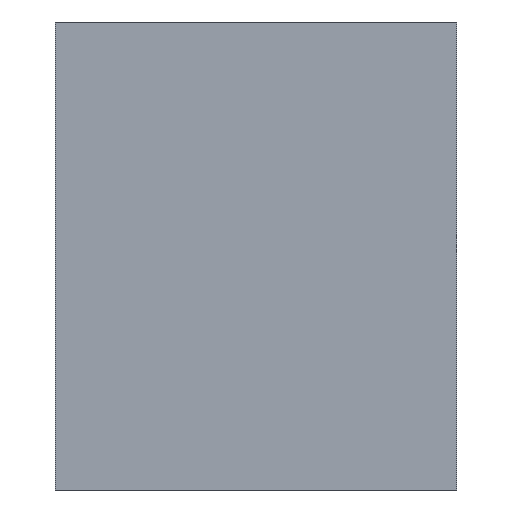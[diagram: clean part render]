
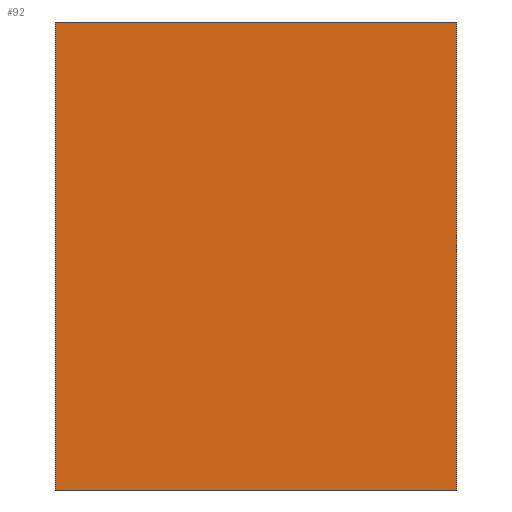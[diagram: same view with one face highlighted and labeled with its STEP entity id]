
A CAD part, top view. The second image highlights one B-rep face of the part: STEP entity #92.
In plain terms, the highlighted planar face has unit normal (0, 0, 1).
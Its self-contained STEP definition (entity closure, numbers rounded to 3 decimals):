
#53=CARTESIAN_POINT('Axis2P3D Location',(0.,0.,0.)) ;
#58=CARTESIAN_POINT('Line Origine',(60.,0.,0.)) ;
#62=CARTESIAN_POINT('Vertex',(0.,0.,0.)) ;
#64=CARTESIAN_POINT('Vertex',(120.,0.,0.)) ;
#67=CARTESIAN_POINT('Line Origine',(120.,70.,0.)) ;
#71=CARTESIAN_POINT('Vertex',(120.,140.,0.)) ;
#74=CARTESIAN_POINT('Line Origine',(60.,140.,0.)) ;
#78=CARTESIAN_POINT('Vertex',(0.,140.,0.)) ;
#81=CARTESIAN_POINT('Line Origine',(0.,70.,0.)) ;
#54=DIRECTION('Axis2P3D Direction',(0.,0.,1.)) ;
#55=DIRECTION('Axis2P3D XDirection',(1.,0.,0.)) ;
#59=DIRECTION('Vector Direction',(1.,0.,0.)) ;
#68=DIRECTION('Vector Direction',(0.,1.,0.)) ;
#75=DIRECTION('Vector Direction',(-1.,0.,0.)) ;
#82=DIRECTION('Vector Direction',(0.,-1.,0.)) ;
#56=AXIS2_PLACEMENT_3D('Plane Axis2P3D',#53,#54,#55) ;
#87=ORIENTED_EDGE('',*,*,#66,.T.) ;
#88=ORIENTED_EDGE('',*,*,#73,.T.) ;
#89=ORIENTED_EDGE('',*,*,#80,.T.) ;
#90=ORIENTED_EDGE('',*,*,#85,.T.) ;
#60=VECTOR('Line Direction',#59,1.) ;
#69=VECTOR('Line Direction',#68,1.) ;
#76=VECTOR('Line Direction',#75,1.) ;
#83=VECTOR('Line Direction',#82,1.) ;
#92=ADVANCED_FACE('Fill.1',(#91),#57,.T.) ;
#66=EDGE_CURVE('',#63,#65,#61,.T.) ;
#73=EDGE_CURVE('',#65,#72,#70,.T.) ;
#80=EDGE_CURVE('',#72,#79,#77,.T.) ;
#85=EDGE_CURVE('',#79,#63,#84,.T.) ;
#86=EDGE_LOOP('',(#87,#88,#89,#90)) ;
#91=FACE_OUTER_BOUND('',#86,.T.) ;
#61=LINE('Line',#58,#60) ;
#70=LINE('Line',#67,#69) ;
#77=LINE('Line',#74,#76) ;
#84=LINE('Line',#81,#83) ;
#57=PLANE('',#56) ;
#63=VERTEX_POINT('',#62) ;
#65=VERTEX_POINT('',#64) ;
#72=VERTEX_POINT('',#71) ;
#79=VERTEX_POINT('',#78) ;
